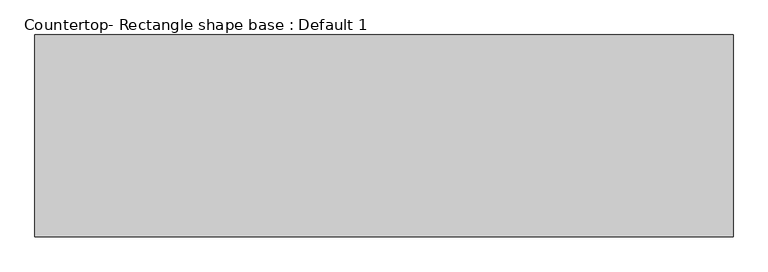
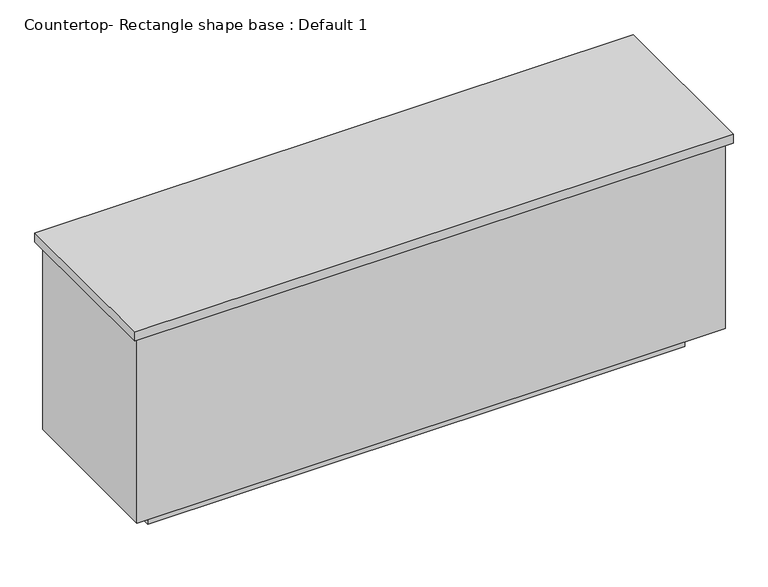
"""IFC4 building model written with IfcOpenShell, lengths in millimetres: proxy geometry, Countertop- Rectangle shape base : Default 1."""

from ifc_helpers import new_model, si_unit, frame, origin, origin_with_axes, place, context, project, spatial, polyline, outline, extrude, source, transform, mapped, element, save


def countertop_rectangle_shape_base_default_1_b1a04b2f(model_context):
    return source(origin(), model_context, "Body", "SweptSolid", [
        extrude(outline(polyline([(-412.75, 41.275), (-412.75, 720.725), (1936.75, 720.725), (1936.75, 41.275), (-412.75, 41.275)])), frame((0.0, 0.0, 876.3), z_axis=(0.0, 0.0, 1.0), x_axis=(1.0, 0.0, 0.0)), (0.0, 0.0, 1.0), 38.1),
        extrude(outline(polyline([(1917.7, 701.675), (1917.7, 60.325), (-393.7, 60.325), (-393.7, 701.675), (1917.7, 701.675)])), frame((0.0, 0.0, 101.6), z_axis=(0.0, 0.0, 1.0), x_axis=(1.0, 0.0, 0.0)), (0.0, 0.0, 1.0), 774.7),
        extrude(outline(polyline([(1816.1, 600.075), (1816.1, 161.925), (-292.1, 161.925), (-292.1, 600.075), (1816.1, 600.075)])), origin_with_axes(), (0.0, 0.0, 1.0), 101.6),
    ])


if __name__ == "__main__":
    model = new_model("IFC4")
    model_context = context("Model", 3, world=origin())
    ifc_project = project(units=[si_unit("LENGTHUNIT", "METRE", prefix="MILLI")], contexts=[model_context])
    site = spatial("IfcSite", under=ifc_project)
    building = spatial("IfcBuilding", under=site)
    placement = place(None, origin())
    countertop_rectangle_shape_base_default_1_shape = countertop_rectangle_shape_base_default_1_b1a04b2f(model_context)
    element("IfcBuildingElementProxy", 1, Name="Countertop- Rectangle shape base : Default 1", ObjectType="Countertop- Rectangle shape base : Default 1", at=placement, inside=building, context=model_context, shape_type="MappedRepresentation", body=[
        mapped(countertop_rectangle_shape_base_default_1_shape, transform((0.0, 0.0, 0.0), x_axis=(1.0, 0.0, 0.0), y_axis=(0.0, 1.0, 0.0), z_axis=(0.0, 0.0, 1.0))),
    ])
    save(model, "model.ifc")
